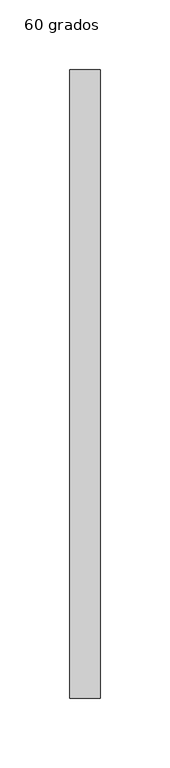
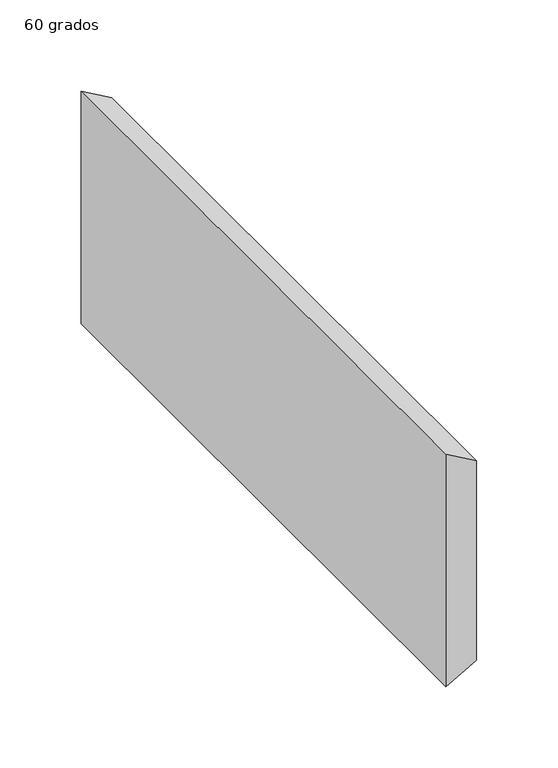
"""IFC4 building model written with IfcOpenShell, lengths in millimetres: duct fitting geometry, M_Transición rectangular - Ángulo : 60 grados."""

from ifc_helpers import new_model, si_unit, frame, origin, place, context, project, spatial, polyline, outline, extrude, source, transform, mapped, element, save


def duct_fitting_60_grados_e1e4999c(model_context):
    return source(origin(), model_context, "Body", "SweptSolid", [
        extrude(outline(polyline([(87.5, 0.0), (-87.5, 0.0), (-75.0, 21.6506351), (75.0, 21.6506351), (87.5, 0.0)])), frame((0.0, -225.0, 0.0), z_axis=(0.0, 1.0, 0.0), x_axis=(0.0, 0.0, 1.0)), (0.0, 0.0, 1.0), 450.0),
    ])


if __name__ == "__main__":
    model = new_model("IFC4")
    model_context = context("Model", 3, world=origin())
    ifc_project = project(units=[si_unit("LENGTHUNIT", "METRE", prefix="MILLI")], contexts=[model_context])
    site = spatial("IfcSite", under=ifc_project)
    building = spatial("IfcBuilding", under=site)
    placement = place(None, origin())
    duct_fitting_60_grados_shape = duct_fitting_60_grados_e1e4999c(model_context)
    element("IfcDuctFitting", 1, ObjectType="M_Transición rectangular - Ángulo : 60 grados", at=placement, inside=building, context=model_context, shape_type="MappedRepresentation", body=[
        mapped(duct_fitting_60_grados_shape, transform((0.0, 0.0, 0.0), x_axis=(1.0, 0.0, 0.0), y_axis=(0.0, 1.0, 0.0), z_axis=(0.0, 0.0, 1.0))),
    ])
    save(model, "model.ifc")
